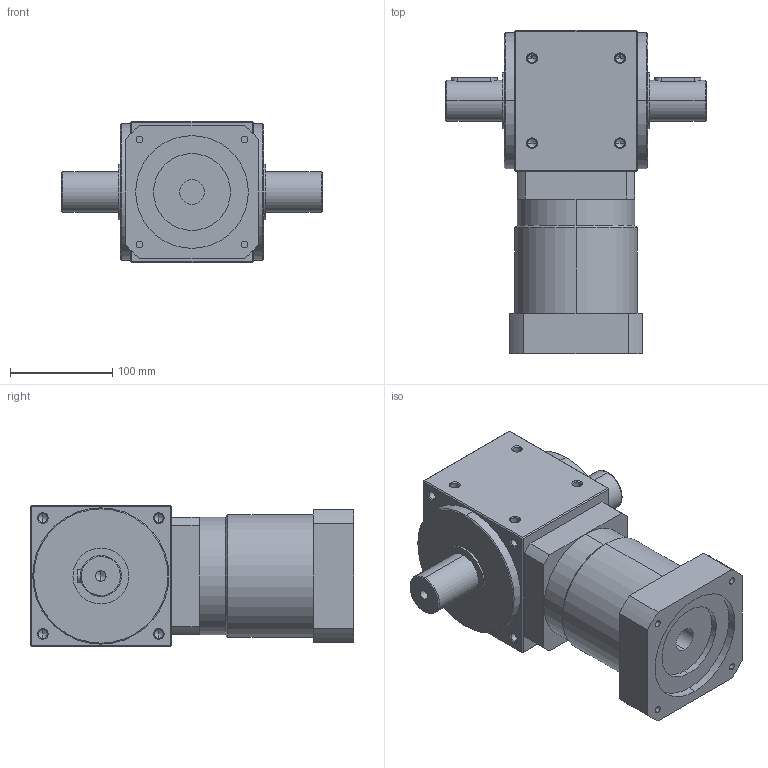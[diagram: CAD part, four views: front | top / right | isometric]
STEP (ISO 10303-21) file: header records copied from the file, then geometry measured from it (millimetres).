
FILE_DESCRIPTION (( 'STEP AP214' ), '1' );
FILE_NAME ('RXW135AS-L2-2P-24-110-130-m8.STEP', '2020-11-27T01:52:27', ( '微软用户' ), ( '微软中国' ), 'SwSTEP 2.0', 'SolidWorks 2014', '' );
FILE_SCHEMA (( 'AUTOMOTIVE_DESIGN' ));
Length unit declared in the file: millimetre
Products named in the file (2): RXW135AS-L2-2P-24-110-130-m8
Bounding box: 254 x 316 x 138 mm (x, y, z)
Volume: 4791925.2 mm3; surface area: 235993.2 mm2
Topology: 1 solids, 1 shells, 239 faces, 558 edges, 308 vertices
Faces by surface type: cone 90, cylinder 86, plane 59, bspline 4
Entity records: 9264 total; most frequent: CARTESIAN_POINT 1419, DIRECTION 1190, ORIENTED_EDGE 1028, EDGE_CURVE 514, AXIS2_PLACEMENT_3D 463, VERTEX_POINT 308, EDGE_LOOP 278, VECTOR 264
